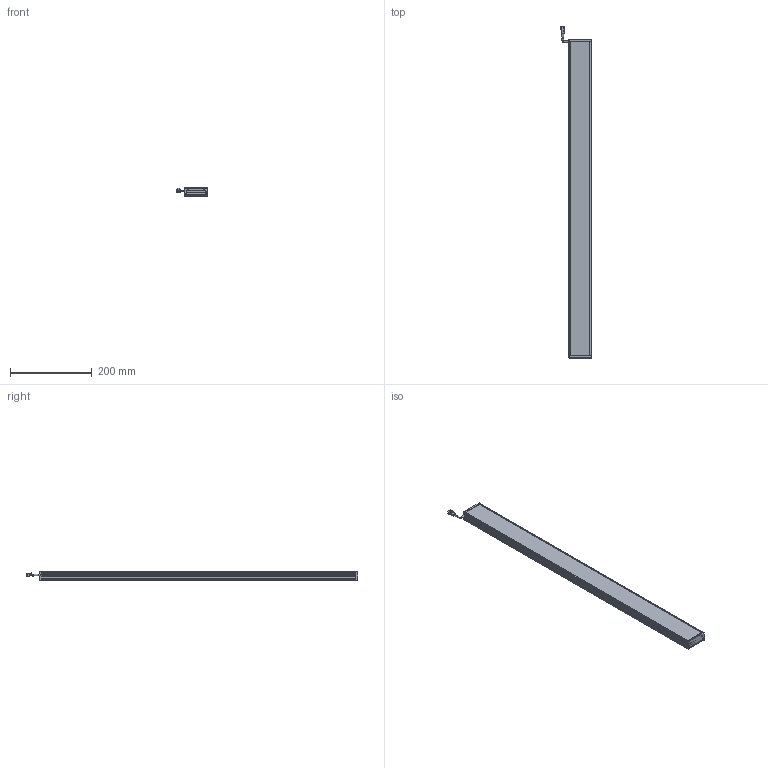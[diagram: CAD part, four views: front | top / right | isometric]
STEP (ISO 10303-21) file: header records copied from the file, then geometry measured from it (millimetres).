
FILE_DESCRIPTION(/* description */ (''),/* implementation_level */ '2;1');
FILE_NAME(/* name */ '',/* time_stamp */ '2024-02-21T15:37:32+08:00',/* author */ (''),/* organization */ (''),/* preprocessor_version */ 'ST-DEVELOPER v20',/* originating_system */ 'Autodesk Translation Framework v12.20.1.177',/* authorisation */ '');
FILE_SCHEMA (('AUTOMOTIVE_DESIGN { 1 0 10303 214 3 1 1 }'));
Length unit declared in the file: millimetre
Products named in the file (6): L55; 3拼母头 v2; 主体; 漫射板; 挡头 (1); 挡头
Assembly tree (5 placements, depth 2):
  L55
    3拼母头 v2
    主体
    漫射板
    挡头 (1)
    挡头
Bounding box: 75 x 814 x 22 mm (x, y, z)
Volume: 410021.1 mm3; surface area: 337232.6 mm2
Topology: 6 solids, 6 shells, 455 faces, 1297 edges, 862 vertices
Faces by surface type: plane 326, cylinder 124, cone 4, torus 1
Full cylindrical faces by diameter (mm): 2.529 x4, 3.8 x3
Entity records: 14941 total; most frequent: CARTESIAN_POINT 2630, ORIENTED_EDGE 2586, DIRECTION 2487, EDGE_CURVE 1293, LINE 1029, VECTOR 1029, VERTEX_POINT 862, AXIS2_PLACEMENT_3D 729
